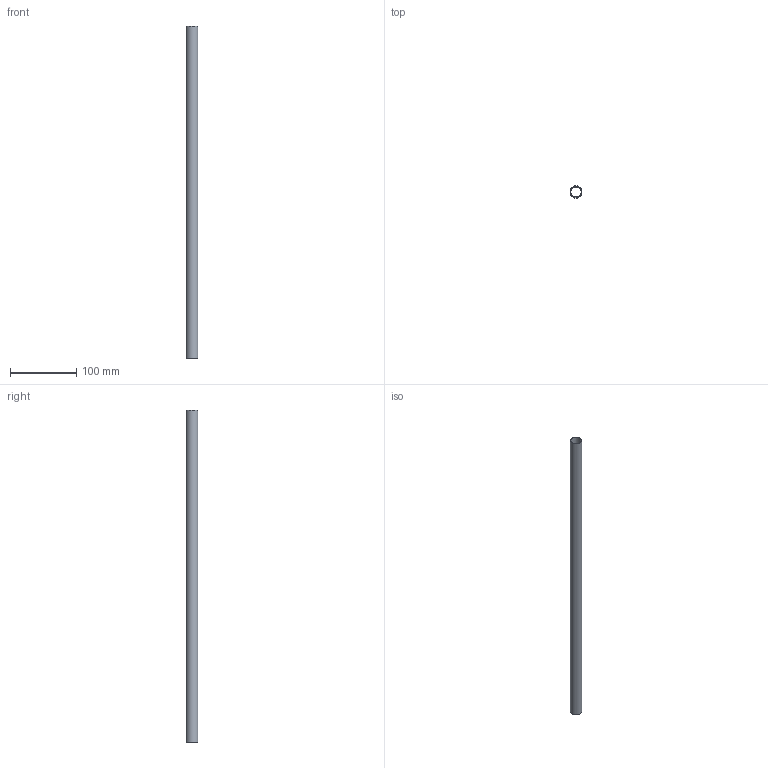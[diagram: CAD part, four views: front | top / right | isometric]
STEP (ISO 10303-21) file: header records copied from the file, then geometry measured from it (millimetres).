
FILE_DESCRIPTION(/* description */ ('RÄCKESRÖR Ø13X18'),/* implementation_level */ '2;1');
FILE_NAME(/* name */ '300-3000-01.stp',/* time_stamp */ '2022-09-16T11:24:59+02:00',/* author */ ('MD'),/* organization */ ('CARRYLINE'),/* preprocessor_version */ 'ST-DEVELOPER v19.2',/* originating_system */ 'Autodesk Inventor 2023',/* authorisation */ '');
FILE_SCHEMA (('AUTOMOTIVE_DESIGN { 1 0 10303 214 3 1 1 }'));
Length unit declared in the file: millimetre
Products named in the file (1): 300-3000-01
Bounding box: 18 x 18 x 500 mm (x, y, z)
Volume: 26703.5 mm3; surface area: 53513.9 mm2
Topology: 1 solids, 1 shells, 4 faces, 6 edges, 4 vertices
Faces by surface type: cylinder 2, plane 2
Full cylindrical faces by diameter (mm): 16 x1, 18 x1
Entity records: 141 total; most frequent: DIRECTION 20, CARTESIAN_POINT 15, ORIENTED_EDGE 12, AXIS2_PLACEMENT_3D 9, EDGE_LOOP 6, EDGE_CURVE 6, FACE_OUTER_BOUND 4, CIRCLE 4
